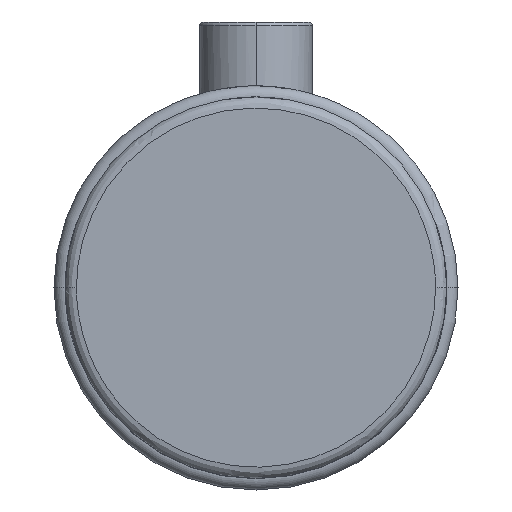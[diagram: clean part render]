
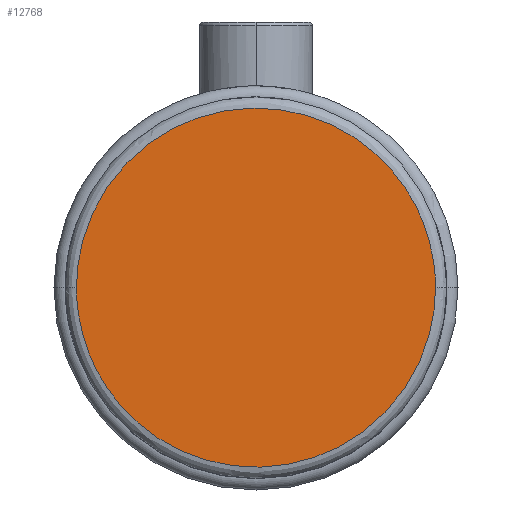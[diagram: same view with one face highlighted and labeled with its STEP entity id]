
A CAD part, top view. The second image highlights one B-rep face of the part: STEP entity #12768.
In plain terms, the highlighted planar face has unit normal (0, 0, 1).
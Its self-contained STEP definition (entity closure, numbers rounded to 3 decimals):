
#486 = EDGE_CURVE ( 'NONE', #9441, #1961, #6441, .T. ) ;
#1479 = CARTESIAN_POINT ( 'NONE',  ( 47.8, 95.6, 50. ) ) ;
#1961 = VERTEX_POINT ( 'NONE', #5037 ) ;
#2096 = ORIENTED_EDGE ( 'NONE', *, *, #486, .F. ) ;
#2654 = CARTESIAN_POINT ( 'NONE',  ( -47.8, -95.6, 50. ) ) ;
#4450 = DIRECTION ( 'NONE',  ( 0., 0., 1. ) ) ;
#5037 = CARTESIAN_POINT ( 'NONE',  ( -47.8, 0., 50. ) ) ;
#5465 = CARTESIAN_POINT ( 'NONE',  ( -47.8, 95.6, 50. ) ) ;
#5936 = AXIS2_PLACEMENT_3D ( 'NONE', #8469, #4450, #11514 ) ;
#6075 = ORIENTED_EDGE ( 'NONE', *, *, #10569, .F. ) ;
#6441 =( BOUNDED_CURVE ( )  B_SPLINE_CURVE ( 3, ( #9743, #7623, #2654, #10599 ),
 .UNSPECIFIED., .F., .F. ) 
 B_SPLINE_CURVE_WITH_KNOTS ( ( 4, 4 ),
 ( 0.25, 0.75 ),
 .UNSPECIFIED. ) 
 CURVE ( )  GEOMETRIC_REPRESENTATION_ITEM ( )  RATIONAL_B_SPLINE_CURVE ( ( 1., 0.333, 0.333, 1. ) ) 
 REPRESENTATION_ITEM ( '' )  );
#6557 = EDGE_LOOP ( 'NONE', ( #2096, #6075 ) ) ;
#7623 = CARTESIAN_POINT ( 'NONE',  ( 47.8, -95.6, 50. ) ) ;
#7822 =( BOUNDED_CURVE ( )  B_SPLINE_CURVE ( 3, ( #11522, #5465, #1479, #8524 ),
 .UNSPECIFIED., .F., .F. ) 
 B_SPLINE_CURVE_WITH_KNOTS ( ( 4, 4 ),
 ( 0.75, 1.25 ),
 .UNSPECIFIED. ) 
 CURVE ( )  GEOMETRIC_REPRESENTATION_ITEM ( )  RATIONAL_B_SPLINE_CURVE ( ( 1., 0.333, 0.333, 1. ) ) 
 REPRESENTATION_ITEM ( '' )  );
#8021 = FACE_OUTER_BOUND ( 'NONE', #6557, .T. ) ;
#8469 = CARTESIAN_POINT ( 'NONE',  ( 0., 25.4, 50. ) ) ;
#8524 = CARTESIAN_POINT ( 'NONE',  ( 47.8, 0., 50. ) ) ;
#9441 = VERTEX_POINT ( 'NONE', #13068 ) ;
#9743 = CARTESIAN_POINT ( 'NONE',  ( 47.8, 0., 50. ) ) ;
#10518 = PLANE ( 'NONE',  #5936 ) ;
#10569 = EDGE_CURVE ( 'NONE', #1961, #9441, #7822, .T. ) ;
#10599 = CARTESIAN_POINT ( 'NONE',  ( -47.8, 0., 50. ) ) ;
#11514 = DIRECTION ( 'NONE',  ( 0., -1., 0. ) ) ;
#11522 = CARTESIAN_POINT ( 'NONE',  ( -47.8, 0., 50. ) ) ;
#12768 = ADVANCED_FACE ( 'NONE', ( #8021 ), #10518, .T. ) ;
#13068 = CARTESIAN_POINT ( 'NONE',  ( 47.8, 0., 50. ) ) ;
